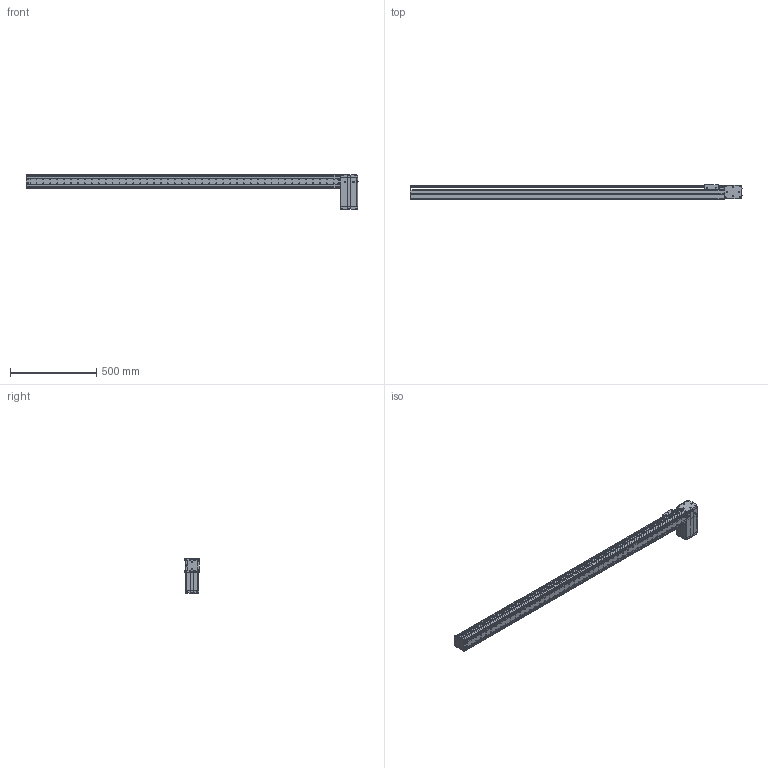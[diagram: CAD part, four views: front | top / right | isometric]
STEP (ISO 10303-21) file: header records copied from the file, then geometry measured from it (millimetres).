
FILE_DESCRIPTION((''),'2;1');
FILE_NAME('BE10_-BL-S_N-G5_IGS_PRT','2017-06-18T',(' '),(''),'PRO/ENGINEER BY PARAMETRIC TECHNOLOGY CORPORATION, 2015030','PRO/ENGINEER BY PARAMETRIC TECHNOLOGY CORPORATION, 2015030','');
FILE_SCHEMA(('CONFIG_CONTROL_DESIGN'));
Products named in the file (1): BE10_-BL-S_N-G5_IGS_PRT
Bounding box: 1920.8 x 85 x 200.22 mm (x, y, z)
Volume: 2590669.3 mm3; surface area: 1763835.9 mm2
Topology: 2 solids, 177 shells, 2285 faces, 6269 edges, 4167 vertices
Faces by surface type: plane 1075, cylinder 1051, cone 103, sphere 28, torus 25, bspline 3
Entity records: 74991 total; most frequent: CARTESIAN_POINT 15482, DIRECTION 12653, ORIENTED_EDGE 11810, EDGE_CURVE 6215, AXIS2_PLACEMENT_3D 4605, VERTEX_POINT 4167, VECTOR 3443, LINE 3443
